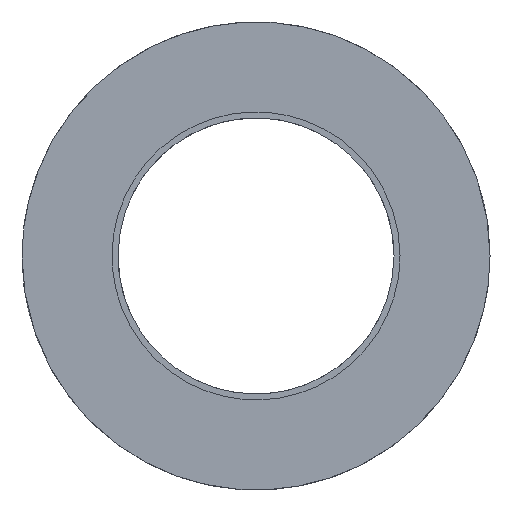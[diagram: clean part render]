
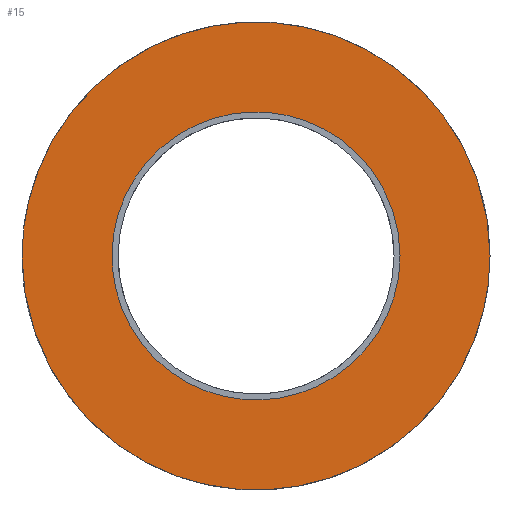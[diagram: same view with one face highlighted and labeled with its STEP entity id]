
A CAD part, top view. The second image highlights one B-rep face of the part: STEP entity #15.
In plain terms, the highlighted free-form (B-spline) face has degree [1, 1] with [2, 2] control points.
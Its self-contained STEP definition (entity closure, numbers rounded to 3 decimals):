
#15=ADVANCED_FACE('',(#25,#22),#198,.T.);
#22=FACE_BOUND('',#34,.T.);
#25=FACE_OUTER_BOUND('',#33,.T.);
#33=EDGE_LOOP('',(#44,#45));
#34=EDGE_LOOP('',(#46));
#44=ORIENTED_EDGE('',*,*,#151,.T.);
#45=ORIENTED_EDGE('',*,*,#152,.T.);
#46=ORIENTED_EDGE('',*,*,#148,.F.);
#72=B_SPLINE_CURVE_WITH_KNOTS('',1,(#478,#479),.UNSPECIFIED.,.F.,.F.,(2,
2),(0.,61.261),.UNSPECIFIED.);
#81=B_SPLINE_CURVE_WITH_KNOTS('',1,(#498,#499),.UNSPECIFIED.,.F.,.F.,(2,
2),(61.261,122.522),.UNSPECIFIED.);
#83=PCURVE('',#197,#109);
#86=PCURVE('',#198,#112);
#87=PCURVE('',#198,#113);
#88=PCURVE('',#198,#114);
#98=PCURVE('',#194,#124);
#107=PCURVE('',#196,#133);
#109=DEFINITIONAL_REPRESENTATION('',(#162),#503);
#112=DEFINITIONAL_REPRESENTATION('',(#168),#503);
#113=DEFINITIONAL_REPRESENTATION('',(#170),#503);
#114=DEFINITIONAL_REPRESENTATION('',(#171),#503);
#124=DEFINITIONAL_REPRESENTATION('',(#72),#503);
#133=DEFINITIONAL_REPRESENTATION('',(#81),#503);
#135=SURFACE_CURVE('',#161,(#83,#88),.PCURVE_S1.);
#138=SURFACE_CURVE('',#167,(#86,#98),.PCURVE_S1.);
#139=SURFACE_CURVE('',#169,(#87,#107),.PCURVE_S1.);
#148=EDGE_CURVE('',#185,#185,#135,.T.);
#151=EDGE_CURVE('',#186,#192,#138,.T.);
#152=EDGE_CURVE('',#192,#186,#139,.T.);
#161=(
BOUNDED_CURVE()
B_SPLINE_CURVE(2,(#355,#356,#357,#358,#359,#360,#361,#362,#363),
 .UNSPECIFIED.,.T.,.F.)
B_SPLINE_CURVE_WITH_KNOTS((3,2,2,2,3),(0.,18.85,37.699,
56.549,75.398),.UNSPECIFIED.)
CURVE()
GEOMETRIC_REPRESENTATION_ITEM()
RATIONAL_B_SPLINE_CURVE((1.,0.707,1.,0.707,1.,0.707,
1.,0.707,1.))
REPRESENTATION_ITEM('')
);
#162=(
BOUNDED_CURVE()
B_SPLINE_CURVE(2,(#364,#365,#366,#367,#368,#369,#370,#371,#372),
 .UNSPECIFIED.,.T.,.F.)
B_SPLINE_CURVE_WITH_KNOTS((3,2,2,2,3),(0.,18.85,37.699,
56.549,75.398),.UNSPECIFIED.)
CURVE()
GEOMETRIC_REPRESENTATION_ITEM()
RATIONAL_B_SPLINE_CURVE((1.,0.707,1.,0.707,1.,0.707,
1.,0.707,1.))
REPRESENTATION_ITEM('')
);
#167=(
BOUNDED_CURVE()
B_SPLINE_CURVE(2,(#393,#394,#395,#396,#397),.UNSPECIFIED.,.F.,.F.)
B_SPLINE_CURVE_WITH_KNOTS((3,2,3),(0.,30.631,61.261),
 .UNSPECIFIED.)
CURVE()
GEOMETRIC_REPRESENTATION_ITEM()
RATIONAL_B_SPLINE_CURVE((1.,0.707,1.,0.707,1.))
REPRESENTATION_ITEM('')
);
#168=(
BOUNDED_CURVE()
B_SPLINE_CURVE(2,(#398,#399,#400,#401,#402),.UNSPECIFIED.,.F.,.F.)
B_SPLINE_CURVE_WITH_KNOTS((3,2,3),(0.,30.631,61.261),
 .UNSPECIFIED.)
CURVE()
GEOMETRIC_REPRESENTATION_ITEM()
RATIONAL_B_SPLINE_CURVE((1.,0.707,1.,0.707,1.))
REPRESENTATION_ITEM('')
);
#169=(
BOUNDED_CURVE()
B_SPLINE_CURVE(2,(#403,#404,#405,#406,#407),.UNSPECIFIED.,.F.,.F.)
B_SPLINE_CURVE_WITH_KNOTS((3,2,3),(61.261,91.892,122.522),
 .UNSPECIFIED.)
CURVE()
GEOMETRIC_REPRESENTATION_ITEM()
RATIONAL_B_SPLINE_CURVE((1.,0.707,1.,0.707,1.))
REPRESENTATION_ITEM('')
);
#170=(
BOUNDED_CURVE()
B_SPLINE_CURVE(2,(#408,#409,#410,#411,#412),.UNSPECIFIED.,.F.,.F.)
B_SPLINE_CURVE_WITH_KNOTS((3,2,3),(61.261,91.892,122.522),
 .UNSPECIFIED.)
CURVE()
GEOMETRIC_REPRESENTATION_ITEM()
RATIONAL_B_SPLINE_CURVE((1.,0.707,1.,0.707,1.))
REPRESENTATION_ITEM('')
);
#171=(
BOUNDED_CURVE()
B_SPLINE_CURVE(2,(#413,#414,#415,#416,#417,#418,#419,#420,#421),
 .UNSPECIFIED.,.T.,.F.)
B_SPLINE_CURVE_WITH_KNOTS((3,2,2,2,3),(0.,18.85,37.699,
56.549,75.398),.UNSPECIFIED.)
CURVE()
GEOMETRIC_REPRESENTATION_ITEM()
RATIONAL_B_SPLINE_CURVE((1.,0.707,1.,0.707,1.,0.707,
1.,0.707,1.))
REPRESENTATION_ITEM('')
);
#185=VERTEX_POINT('',#347);
#186=VERTEX_POINT('',#348);
#192=VERTEX_POINT('',#354);
#194=(
BOUNDED_SURFACE()
B_SPLINE_SURFACE(2,1,((#316,#317),(#318,#319),(#320,#321),(#322,#323),(#324,
#325)),.UNSPECIFIED.,.F.,.F.,.F.)
B_SPLINE_SURFACE_WITH_KNOTS((3,2,3),(2,2),(0.,30.631,61.261),
(0.,3.),.UNSPECIFIED.)
GEOMETRIC_REPRESENTATION_ITEM()
RATIONAL_B_SPLINE_SURFACE(((1.,1.),(0.707,0.707),
(1.,1.),(0.707,0.707),(1.,1.)))
REPRESENTATION_ITEM('')
SURFACE()
);
#196=(
BOUNDED_SURFACE()
B_SPLINE_SURFACE(2,1,((#336,#337),(#338,#339),(#340,#341),(#342,#343),(#344,
#345)),.UNSPECIFIED.,.F.,.F.,.F.)
B_SPLINE_SURFACE_WITH_KNOTS((3,2,3),(2,2),(61.261,91.892,
122.522),(0.,3.),.UNSPECIFIED.)
GEOMETRIC_REPRESENTATION_ITEM()
RATIONAL_B_SPLINE_SURFACE(((1.,1.),(0.707,0.707),
(1.,1.),(0.707,0.707),(1.,1.)))
REPRESENTATION_ITEM('')
SURFACE()
);
#197=B_SPLINE_SURFACE_WITH_KNOTS('',1,1,((#294,#295),(#296,#297)),
 .UNSPECIFIED.,.F.,.F.,.F.,(2,2),(2,2),(-43.875,4.875),(-24.375,24.375),
 .UNSPECIFIED.);
#198=B_SPLINE_SURFACE_WITH_KNOTS('',1,1,((#298,#299),(#300,#301)),
 .UNSPECIFIED.,.F.,.F.,.F.,(2,2),(2,2),(-43.875,4.875),(-24.375,24.375),
 .UNSPECIFIED.);
#294=CARTESIAN_POINT('',(-24.375,-24.375,3.));
#295=CARTESIAN_POINT('',(-24.375,24.375,3.));
#296=CARTESIAN_POINT('',(24.375,-24.375,3.));
#297=CARTESIAN_POINT('',(24.375,24.375,3.));
#298=CARTESIAN_POINT('',(-24.375,-24.375,3.));
#299=CARTESIAN_POINT('',(-24.375,24.375,3.));
#300=CARTESIAN_POINT('',(24.375,-24.375,3.));
#301=CARTESIAN_POINT('',(24.375,24.375,3.));
#316=CARTESIAN_POINT('',(19.5,0.,0.));
#317=CARTESIAN_POINT('',(19.5,0.,3.));
#318=CARTESIAN_POINT('',(19.5,19.5,0.));
#319=CARTESIAN_POINT('',(19.5,19.5,3.));
#320=CARTESIAN_POINT('',(0.,19.5,0.));
#321=CARTESIAN_POINT('',(0.,19.5,3.));
#322=CARTESIAN_POINT('',(-19.5,19.5,0.));
#323=CARTESIAN_POINT('',(-19.5,19.5,3.));
#324=CARTESIAN_POINT('',(-19.5,0.,0.));
#325=CARTESIAN_POINT('',(-19.5,0.,3.));
#336=CARTESIAN_POINT('',(-19.5,0.,0.));
#337=CARTESIAN_POINT('',(-19.5,0.,3.));
#338=CARTESIAN_POINT('',(-19.5,-19.5,0.));
#339=CARTESIAN_POINT('',(-19.5,-19.5,3.));
#340=CARTESIAN_POINT('',(0.,-19.5,0.));
#341=CARTESIAN_POINT('',(0.,-19.5,3.));
#342=CARTESIAN_POINT('',(19.5,-19.5,0.));
#343=CARTESIAN_POINT('',(19.5,-19.5,3.));
#344=CARTESIAN_POINT('',(19.5,0.,0.));
#345=CARTESIAN_POINT('',(19.5,0.,3.));
#347=CARTESIAN_POINT('',(12.,0.,3.));
#348=CARTESIAN_POINT('',(19.5,0.,3.));
#354=CARTESIAN_POINT('',(-19.5,0.,3.));
#355=CARTESIAN_POINT('',(12.,0.,3.));
#356=CARTESIAN_POINT('',(12.,12.,3.));
#357=CARTESIAN_POINT('',(0.,12.,3.));
#358=CARTESIAN_POINT('',(-12.,12.,3.));
#359=CARTESIAN_POINT('',(-12.,0.,3.));
#360=CARTESIAN_POINT('',(-12.,-12.,3.));
#361=CARTESIAN_POINT('',(0.,-12.,3.));
#362=CARTESIAN_POINT('',(12.,-12.,3.));
#363=CARTESIAN_POINT('',(12.,0.,3.));
#364=CARTESIAN_POINT('',(-7.5,0.));
#365=CARTESIAN_POINT('',(-7.5,12.));
#366=CARTESIAN_POINT('',(-19.5,12.));
#367=CARTESIAN_POINT('',(-31.5,12.));
#368=CARTESIAN_POINT('',(-31.5,0.));
#369=CARTESIAN_POINT('',(-31.5,-12.));
#370=CARTESIAN_POINT('',(-19.5,-12.));
#371=CARTESIAN_POINT('',(-7.5,-12.));
#372=CARTESIAN_POINT('',(-7.5,0.));
#393=CARTESIAN_POINT('',(19.5,0.,3.));
#394=CARTESIAN_POINT('',(19.5,19.5,3.));
#395=CARTESIAN_POINT('',(0.,19.5,3.));
#396=CARTESIAN_POINT('',(-19.5,19.5,3.));
#397=CARTESIAN_POINT('',(-19.5,0.,3.));
#398=CARTESIAN_POINT('',(0.,0.));
#399=CARTESIAN_POINT('',(0.,19.5));
#400=CARTESIAN_POINT('',(-19.5,19.5));
#401=CARTESIAN_POINT('',(-39.,19.5));
#402=CARTESIAN_POINT('',(-39.,0.));
#403=CARTESIAN_POINT('',(-19.5,0.,3.));
#404=CARTESIAN_POINT('',(-19.5,-19.5,3.));
#405=CARTESIAN_POINT('',(0.,-19.5,3.));
#406=CARTESIAN_POINT('',(19.5,-19.5,3.));
#407=CARTESIAN_POINT('',(19.5,0.,3.));
#408=CARTESIAN_POINT('',(-39.,0.));
#409=CARTESIAN_POINT('',(-39.,-19.5));
#410=CARTESIAN_POINT('',(-19.5,-19.5));
#411=CARTESIAN_POINT('',(0.,-19.5));
#412=CARTESIAN_POINT('',(0.,0.));
#413=CARTESIAN_POINT('',(-7.5,0.));
#414=CARTESIAN_POINT('',(-7.5,12.));
#415=CARTESIAN_POINT('',(-19.5,12.));
#416=CARTESIAN_POINT('',(-31.5,12.));
#417=CARTESIAN_POINT('',(-31.5,0.));
#418=CARTESIAN_POINT('',(-31.5,-12.));
#419=CARTESIAN_POINT('',(-19.5,-12.));
#420=CARTESIAN_POINT('',(-7.5,-12.));
#421=CARTESIAN_POINT('',(-7.5,0.));
#478=CARTESIAN_POINT('',(0.,3.));
#479=CARTESIAN_POINT('',(61.261,3.));
#498=CARTESIAN_POINT('',(61.261,3.));
#499=CARTESIAN_POINT('',(122.522,3.));
#503=(
GEOMETRIC_REPRESENTATION_CONTEXT(2)
PARAMETRIC_REPRESENTATION_CONTEXT()
REPRESENTATION_CONTEXT('pspace','')
);
